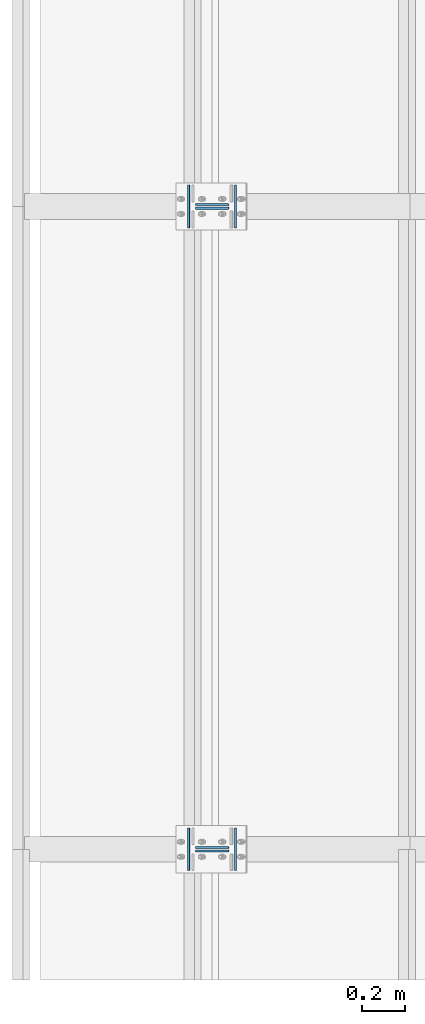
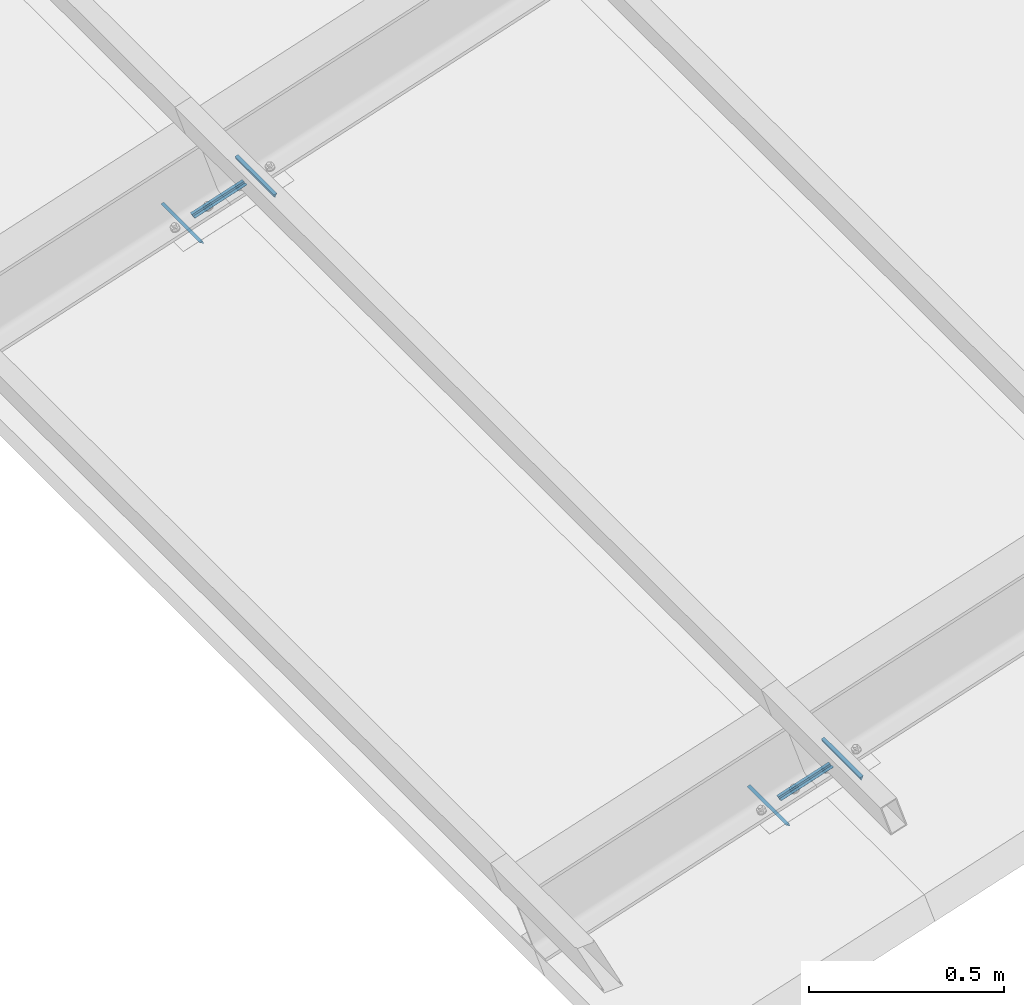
# One storey, part 10 of 53: 16 fasteners.
"""IFC4 building model written with IfcOpenShell, lengths in metres."""

from ifc_helpers import new_model, si_unit, frame, origin_with_axes, place, context, project, spatial, polyline, outline, extrude, type_object, element, save


model = new_model("IFC4")

# Units and contexts
model_context = context("Model", 3, precision=1e-05, world=origin_with_axes())
ifc_project = project(units=[si_unit("LENGTHUNIT", "METRE"), si_unit("AREAUNIT", "SQUARE_METRE"), si_unit("VOLUMEUNIT", "CUBIC_METRE"), si_unit("MASSUNIT", "GRAM", prefix="KILO"), si_unit("TIMEUNIT", "SECOND"), si_unit("PLANEANGLEUNIT", "RADIAN"), si_unit("SOLIDANGLEUNIT", "STERADIAN"), si_unit("THERMODYNAMICTEMPERATUREUNIT", "DEGREE_CELSIUS")], contexts=[model_context])

# Site, building, storey
placement_1 = place(None, origin_with_axes())
site = spatial("IfcSite", under=ifc_project, at=placement_1, Name="Italia", CompositionType="ELEMENT")
building = spatial("IfcBuilding", under=site, at=placement_1, Name="Capannone", CompositionType="ELEMENT")
storey_placement = place(None, frame((0.0, 0.0, 5.550000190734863), z_axis=(0.0, 0.0, 1.0), x_axis=(1.0, 0.0, 0.0)))
storey = spatial("IfcBuildingStorey", under=building, at=storey_placement, Name="Storey 1", CompositionType="ELEMENT", Elevation=5.550000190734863)

# Fasteners
fastener_type_1 = type_object("IfcFastenerType", Name="Collegamenti 0101_0001 0103_0003 0105_0005 0107_0007 0109_0009 0111_0011", PredefinedType="WELD")
placement_2 = place(placement_1, origin_with_axes())
fastener_1_placement = place(placement_2, origin_with_axes())
element("IfcFastener", 1, at=fastener_1_placement, inside=storey, type_object=fastener_type_1, Name="Collegamenti 0101_0001 0103_0003 0105_0005 0107_0007 0109_0009 0111_0011", context=model_context, shape_type="SweptSolid", body=[
    extrude(outline(polyline([(0.0, 0.0), (-0.0125507, -0.00658464), (-0.00937506, 0.00308037), (0.0, 0.0)])), frame((-0.114344, -0.10005, 5.49669), z_axis=(0.0, 1.0, 0.0), x_axis=(-1.0, 0.0, 0.0)), (0.0, 0.0, 1.0), 0.2001),
])
fastener_type_2 = type_object("IfcFastenerType", Name="Collegamenti 0101_0001 0103_0003 0105_0005 0107_0007 0109_0009 0111_0011", PredefinedType="WELD")
fastener_2_placement = place(placement_2, origin_with_axes())
element("IfcFastener", 2, at=fastener_2_placement, inside=storey, type_object=fastener_type_2, Name="Collegamenti 0101_0001 0103_0003 0105_0005 0107_0007 0109_0009 0111_0011", context=model_context, shape_type="SweptSolid", body=[
    extrude(outline(polyline([(0.0, 0.0), (-0.00619942, -0.0127454), (-0.00937507, -0.00308037), (0.0, 0.0)])), frame((0.114311, 0.10005, 5.57182), z_axis=(0.0, -1.0, 0.0), x_axis=(1.0, 0.0, 0.0)), (0.0, 0.0, 1.0), 0.2001),
])
fastener_type_3 = type_object("IfcFastenerType", Name="Collegamenti 0101_0001 0103_0003 0105_0005 0107_0007 0109_0009 0111_0011", PredefinedType="WELD")
fastener_3_placement = place(placement_2, origin_with_axes())
element("IfcFastener", 3, at=fastener_3_placement, inside=storey, type_object=fastener_type_3, Name="Collegamenti 0101_0001 0103_0003 0105_0005 0107_0007 0109_0009 0111_0011", context=model_context, shape_type="SweptSolid", body=[
    extrude(outline(polyline([(0.0, 0.0), (-0.00986816, -0.0101733), (-0.00986816, 0.0), (0.0, 0.0)])), frame((-0.076963, 0.0133181, 5.50898), z_axis=(0.950031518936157, 0.0, 0.312153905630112), x_axis=(0.0, 1.0, 0.0)), (0.0, 0.0, 1.0), 0.161988),
])
fastener_type_4 = type_object("IfcFastenerType", Name="Collegamenti 0101_0001 0103_0003 0105_0005 0107_0007 0109_0009 0111_0011", PredefinedType="WELD")
fastener_4_placement = place(placement_2, origin_with_axes())
element("IfcFastener", 4, at=fastener_4_placement, inside=storey, type_object=fastener_type_4, Name="Collegamenti 0101_0001 0103_0003 0105_0005 0107_0007 0109_0009 0111_0011", context=model_context, shape_type="SweptSolid", body=[
    extrude(outline(polyline([(0.0, 0.0), (-0.00986816, -0.0101728), (-0.00986816, 0.0), (0.0, 0.0)])), frame((0.0769309, -0.0133182, 5.55954), z_axis=(-0.950031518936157, 0.0, -0.312153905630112), x_axis=(0.0, -1.0, 0.0)), (0.0, 0.0, 1.0), 0.161988),
])
fastener_type_5 = type_object("IfcFastenerType", Name="Collegamenti 0101_0001 0103_0003 0105_0005 0107_0007 0109_0009 0111_0011", PredefinedType="WELD")
fastener_5_placement = place(placement_2, origin_with_axes())
element("IfcFastener", 5, at=fastener_5_placement, inside=storey, type_object=fastener_type_5, Name="Collegamenti 0101_0001 0103_0003 0105_0005 0107_0007 0109_0009 0111_0011", context=model_context, shape_type="SweptSolid", body=[
    extrude(outline(polyline([(0.0, 0.0), (-0.0125507, -0.00658464), (-0.00937506, 0.00308037), (0.0, 0.0)])), frame((-0.114344, -0.10005, 5.49669), z_axis=(0.0, 1.0, 0.0), x_axis=(-1.0, 0.0, 0.0)), (0.0, 0.0, 1.0), 0.2001),
])
fastener_type_6 = type_object("IfcFastenerType", Name="Collegamenti 0101_0001 0103_0003 0105_0005 0107_0007 0109_0009 0111_0011", PredefinedType="WELD")
fastener_6_placement = place(placement_2, origin_with_axes())
element("IfcFastener", 6, at=fastener_6_placement, inside=storey, type_object=fastener_type_6, Name="Collegamenti 0101_0001 0103_0003 0105_0005 0107_0007 0109_0009 0111_0011", context=model_context, shape_type="SweptSolid", body=[
    extrude(outline(polyline([(0.0, 0.0), (-0.00619942, -0.0127454), (-0.00937507, -0.00308037), (0.0, 0.0)])), frame((0.114311, 0.10005, 5.57182), z_axis=(0.0, -1.0, 0.0), x_axis=(1.0, 0.0, 0.0)), (0.0, 0.0, 1.0), 0.2001),
])
fastener_type_7 = type_object("IfcFastenerType", Name="Collegamenti 0101_0001 0103_0003 0105_0005 0107_0007 0109_0009 0111_0011", PredefinedType="WELD")
fastener_7_placement = place(placement_2, origin_with_axes())
element("IfcFastener", 7, at=fastener_7_placement, inside=storey, type_object=fastener_type_7, Name="Collegamenti 0101_0001 0103_0003 0105_0005 0107_0007 0109_0009 0111_0011", context=model_context, shape_type="SweptSolid", body=[
    extrude(outline(polyline([(0.0, 0.0), (-0.00986816, -0.0101733), (-0.00986816, 0.0), (0.0, 0.0)])), frame((-0.076963, 0.0133181, 5.50898), z_axis=(0.950031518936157, 0.0, 0.312153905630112), x_axis=(0.0, 1.0, 0.0)), (0.0, 0.0, 1.0), 0.161988),
])
fastener_type_8 = type_object("IfcFastenerType", Name="Collegamenti 0101_0001 0103_0003 0105_0005 0107_0007 0109_0009 0111_0011", PredefinedType="WELD")
fastener_8_placement = place(placement_2, origin_with_axes())
element("IfcFastener", 8, at=fastener_8_placement, inside=storey, type_object=fastener_type_8, Name="Collegamenti 0101_0001 0103_0003 0105_0005 0107_0007 0109_0009 0111_0011", context=model_context, shape_type="SweptSolid", body=[
    extrude(outline(polyline([(0.0, 0.0), (-0.00986816, -0.0101728), (-0.00986816, 0.0), (0.0, 0.0)])), frame((0.0769309, -0.0133182, 5.55954), z_axis=(-0.950031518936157, 0.0, -0.312153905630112), x_axis=(0.0, -1.0, 0.0)), (0.0, 0.0, 1.0), 0.161988),
])
fastener_type_9 = type_object("IfcFastenerType", Name="Collegamenti 0101_0001 0103_0003 0105_0005 0107_0007 0109_0009 0111_0011", PredefinedType="WELD")
fastener_9_placement = place(placement_2, origin_with_axes())
element("IfcFastener", 9, at=fastener_9_placement, inside=storey, type_object=fastener_type_9, Name="Collegamenti 0101_0001 0103_0003 0105_0005 0107_0007 0109_0009 0111_0011", context=model_context, shape_type="SweptSolid", body=[
    extrude(outline(polyline([(0.0, 0.0), (-0.0125507, -0.00658464), (-0.00937506, 0.00308037), (0.0, 0.0)])), frame((-0.114344, 2.89995, 5.49669), z_axis=(0.0, 1.0, 0.0), x_axis=(-1.0, 0.0, 0.0)), (0.0, 0.0, 1.0), 0.2001),
])
fastener_type_10 = type_object("IfcFastenerType", Name="Collegamenti 0101_0001 0103_0003 0105_0005 0107_0007 0109_0009 0111_0011", PredefinedType="WELD")
fastener_10_placement = place(placement_2, origin_with_axes())
element("IfcFastener", 10, at=fastener_10_placement, inside=storey, type_object=fastener_type_10, Name="Collegamenti 0101_0001 0103_0003 0105_0005 0107_0007 0109_0009 0111_0011", context=model_context, shape_type="SweptSolid", body=[
    extrude(outline(polyline([(0.0, 0.0), (-0.00619942, -0.0127454), (-0.00937507, -0.00308037), (0.0, 0.0)])), frame((0.114311, 3.10005, 5.57182), z_axis=(0.0, -1.0, 0.0), x_axis=(1.0, 0.0, 0.0)), (0.0, 0.0, 1.0), 0.2001),
])
fastener_type_11 = type_object("IfcFastenerType", Name="Collegamenti 0101_0001 0103_0003 0105_0005 0107_0007 0109_0009 0111_0011", PredefinedType="WELD")
fastener_11_placement = place(placement_2, origin_with_axes())
element("IfcFastener", 11, at=fastener_11_placement, inside=storey, type_object=fastener_type_11, Name="Collegamenti 0101_0001 0103_0003 0105_0005 0107_0007 0109_0009 0111_0011", context=model_context, shape_type="SweptSolid", body=[
    extrude(outline(polyline([(0.0, 0.0), (-0.00986814, -0.0101733), (-0.00986814, 0.0), (0.0, 0.0)])), frame((-0.076963, 3.01332, 5.50898), z_axis=(0.950031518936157, 0.0, 0.312153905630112), x_axis=(0.0, 1.0, 0.0)), (0.0, 0.0, 1.0), 0.161988),
])
fastener_type_12 = type_object("IfcFastenerType", Name="Collegamenti 0101_0001 0103_0003 0105_0005 0107_0007 0109_0009 0111_0011", PredefinedType="WELD")
fastener_12_placement = place(placement_2, origin_with_axes())
element("IfcFastener", 12, at=fastener_12_placement, inside=storey, type_object=fastener_type_12, Name="Collegamenti 0101_0001 0103_0003 0105_0005 0107_0007 0109_0009 0111_0011", context=model_context, shape_type="SweptSolid", body=[
    extrude(outline(polyline([(0.0, 0.0), (-0.00986814, -0.0101728), (-0.00986814, 0.0), (0.0, 0.0)])), frame((0.0769309, 2.98668, 5.55954), z_axis=(-0.950031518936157, 0.0, -0.312153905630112), x_axis=(0.0, -1.0, 0.0)), (0.0, 0.0, 1.0), 0.161988),
])
fastener_type_13 = type_object("IfcFastenerType", Name="Collegamenti 0101_0001 0103_0003 0105_0005 0107_0007 0109_0009 0111_0011", PredefinedType="WELD")
fastener_13_placement = place(placement_2, origin_with_axes())
element("IfcFastener", 13, at=fastener_13_placement, inside=storey, type_object=fastener_type_13, Name="Collegamenti 0101_0001 0103_0003 0105_0005 0107_0007 0109_0009 0111_0011", context=model_context, shape_type="SweptSolid", body=[
    extrude(outline(polyline([(0.0, 0.0), (-0.0125507, -0.00658464), (-0.00937506, 0.00308037), (0.0, 0.0)])), frame((-0.114344, 2.89995, 5.49669), z_axis=(0.0, 1.0, 0.0), x_axis=(-1.0, 0.0, 0.0)), (0.0, 0.0, 1.0), 0.2001),
])
fastener_type_14 = type_object("IfcFastenerType", Name="Collegamenti 0101_0001 0103_0003 0105_0005 0107_0007 0109_0009 0111_0011", PredefinedType="WELD")
fastener_14_placement = place(placement_2, origin_with_axes())
element("IfcFastener", 14, at=fastener_14_placement, inside=storey, type_object=fastener_type_14, Name="Collegamenti 0101_0001 0103_0003 0105_0005 0107_0007 0109_0009 0111_0011", context=model_context, shape_type="SweptSolid", body=[
    extrude(outline(polyline([(0.0, 0.0), (-0.00619942, -0.0127454), (-0.00937507, -0.00308037), (0.0, 0.0)])), frame((0.114311, 3.10005, 5.57182), z_axis=(0.0, -1.0, 0.0), x_axis=(1.0, 0.0, 0.0)), (0.0, 0.0, 1.0), 0.2001),
])
fastener_type_15 = type_object("IfcFastenerType", Name="Collegamenti 0101_0001 0103_0003 0105_0005 0107_0007 0109_0009 0111_0011", PredefinedType="WELD")
fastener_15_placement = place(placement_2, origin_with_axes())
element("IfcFastener", 15, at=fastener_15_placement, inside=storey, type_object=fastener_type_15, Name="Collegamenti 0101_0001 0103_0003 0105_0005 0107_0007 0109_0009 0111_0011", context=model_context, shape_type="SweptSolid", body=[
    extrude(outline(polyline([(0.0, 0.0), (-0.00986814, -0.0101733), (-0.00986814, 0.0), (0.0, 0.0)])), frame((-0.076963, 3.01332, 5.50898), z_axis=(0.950031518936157, 0.0, 0.312153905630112), x_axis=(0.0, 1.0, 0.0)), (0.0, 0.0, 1.0), 0.161988),
])
fastener_type_16 = type_object("IfcFastenerType", Name="Collegamenti 0101_0001 0103_0003 0105_0005 0107_0007 0109_0009 0111_0011", PredefinedType="WELD")
fastener_16_placement = place(placement_2, origin_with_axes())
element("IfcFastener", 16, at=fastener_16_placement, inside=storey, type_object=fastener_type_16, Name="Collegamenti 0101_0001 0103_0003 0105_0005 0107_0007 0109_0009 0111_0011", context=model_context, shape_type="SweptSolid", body=[
    extrude(outline(polyline([(0.0, 0.0), (-0.00986814, -0.0101728), (-0.00986814, 0.0), (0.0, 0.0)])), frame((0.0769309, 2.98668, 5.55954), z_axis=(-0.950031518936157, 0.0, -0.312153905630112), x_axis=(0.0, -1.0, 0.0)), (0.0, 0.0, 1.0), 0.161988),
])

save(model, "model.ifc")
